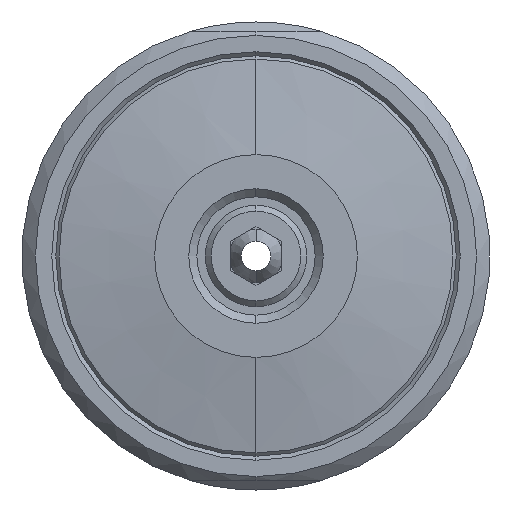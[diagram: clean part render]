
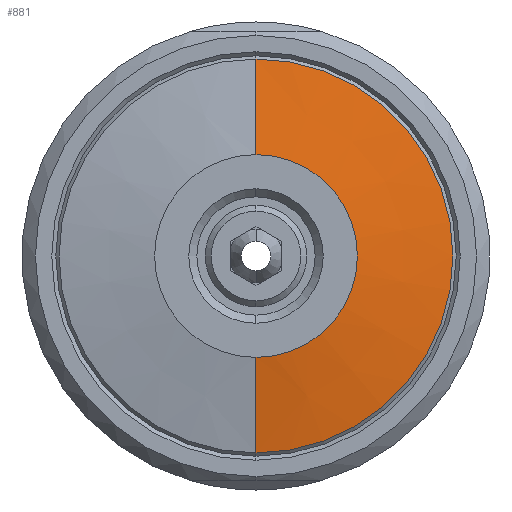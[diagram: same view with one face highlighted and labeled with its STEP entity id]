
A CAD part, left-side view. The second image highlights one B-rep face of the part: STEP entity #881.
In plain terms, the highlighted conical face has half-angle 80.512 degrees and reference radius 9.525 mm.
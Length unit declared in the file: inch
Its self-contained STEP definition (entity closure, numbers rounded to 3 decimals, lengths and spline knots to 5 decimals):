
#874 = VERTEX_POINT ( 'NONE', #6348 ) ;
#875 = ORIENTED_EDGE ( 'NONE', *, *, #876, .T. ) ;
#876 = EDGE_CURVE ( 'NONE', #874, #966, #6507, .T. ) ;
#881 = ADVANCED_FACE ( 'NONE', ( #6344 ), #6448, .T. ) ;
#882 = EDGE_LOOP ( 'NONE', ( #883, #875, #967, #970 ) ) ;
#883 = ORIENTED_EDGE ( 'NONE', *, *, #884, .T. ) ;
#884 = EDGE_CURVE ( 'NONE', #885, #874, #6449, .T. ) ;
#885 = VERTEX_POINT ( 'NONE', #6440 ) ;
#966 = VERTEX_POINT ( 'NONE', #9290 ) ;
#967 = ORIENTED_EDGE ( 'NONE', *, *, #968, .T. ) ;
#968 = EDGE_CURVE ( 'NONE', #966, #969, #9289, .T. ) ;
#969 = VERTEX_POINT ( 'NONE', #9284 ) ;
#970 = ORIENTED_EDGE ( 'NONE', *, *, #971, .F. ) ;
#971 = EDGE_CURVE ( 'NONE', #885, #969, #9282, .T. ) ;
#6333 = DIRECTION ( 'NONE',  ( 0.165, 0., -0.986 ) ) ;
#6344 = FACE_OUTER_BOUND ( 'NONE', #882, .T. ) ;
#6348 = CARTESIAN_POINT ( 'NONE',  ( -6.862, 0., -0.375 ) ) ;
#6440 = CARTESIAN_POINT ( 'NONE',  ( -6.862, 0., 0.375 ) ) ;
#6441 = DIRECTION ( 'NONE',  ( 0., 0., 1. ) ) ;
#6442 = DIRECTION ( 'NONE',  ( 1., 0., 0. ) ) ;
#6443 = CARTESIAN_POINT ( 'NONE',  ( -6.862, 0., 0. ) ) ;
#6444 = AXIS2_PLACEMENT_3D ( 'NONE', #6443, #6442, #6441 ) ;
#6445 = DIRECTION ( 'NONE',  ( 0., 0., 1. ) ) ;
#6446 = DIRECTION ( 'NONE',  ( 1., 0., 0. ) ) ;
#6447 = AXIS2_PLACEMENT_3D ( 'NONE', #6450, #6446, #6445 ) ;
#6448 = CONICAL_SURFACE ( 'NONE', #6447, 0.375, 1.405 ) ;
#6449 = CIRCLE ( 'NONE', #6444, 0.375 ) ;
#6450 = CARTESIAN_POINT ( 'NONE',  ( -6.862, 0., 0. ) ) ;
#6505 = VECTOR ( 'NONE', #6333, 39.37008 ) ;
#6506 = CARTESIAN_POINT ( 'NONE',  ( -6.862, 0., -0.375 ) ) ;
#6507 = LINE ( 'NONE', #6506, #6505 ) ;
#9279 = DIRECTION ( 'NONE',  ( 0.165, 0., 0.986 ) ) ;
#9280 = VECTOR ( 'NONE', #9279, 39.37008 ) ;
#9281 = CARTESIAN_POINT ( 'NONE',  ( -6.862, 0., 0.375 ) ) ;
#9282 = LINE ( 'NONE', #9281, #9280 ) ;
#9284 = CARTESIAN_POINT ( 'NONE',  ( -6.80301, 0., 0.72799 ) ) ;
#9285 = DIRECTION ( 'NONE',  ( 0., 0., -1. ) ) ;
#9286 = DIRECTION ( 'NONE',  ( -1., 0., 0. ) ) ;
#9287 = CARTESIAN_POINT ( 'NONE',  ( -6.80301, 0., 0. ) ) ;
#9288 = AXIS2_PLACEMENT_3D ( 'NONE', #9287, #9286, #9285 ) ;
#9289 = CIRCLE ( 'NONE', #9288, 0.72799 ) ;
#9290 = CARTESIAN_POINT ( 'NONE',  ( -6.80301, 0., -0.72799 ) ) ;
